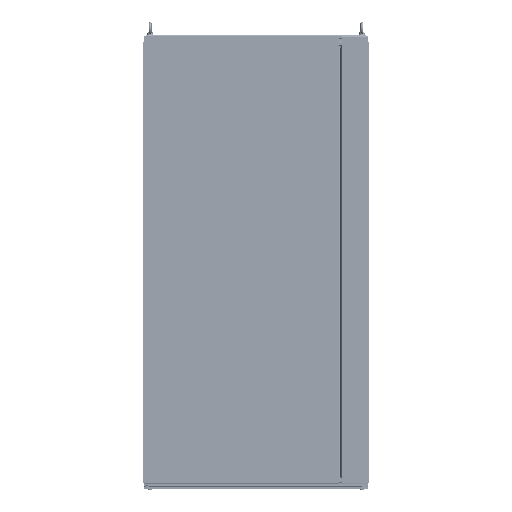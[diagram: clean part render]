
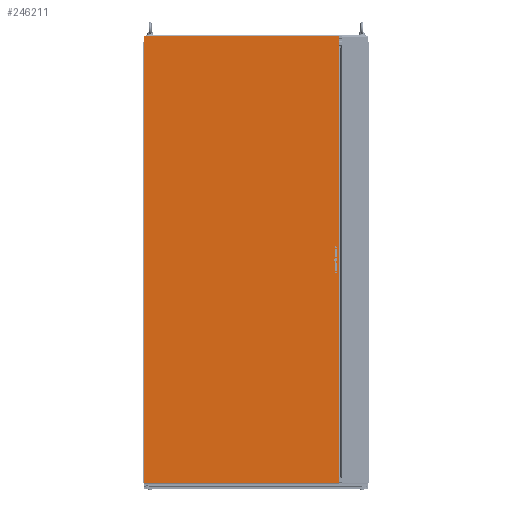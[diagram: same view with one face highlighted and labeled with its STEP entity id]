
A CAD part, top view. The second image highlights one B-rep face of the part: STEP entity #246211.
In plain terms, the highlighted planar face has unit normal (0, 0, 1).
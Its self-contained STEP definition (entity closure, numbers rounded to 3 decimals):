
#244360=DIRECTION('',(0.,1.,0.));
#244361=VECTOR('',#244360,1896.);
#244362=CARTESIAN_POINT('',(-430.5,-937.25,15.));
#244363=LINE('',#244362,#244361);
#244364=CARTESIAN_POINT('',(-414.5,43.75,15.));
#244365=DIRECTION('',(0.,0.,1.));
#244366=DIRECTION('',(1.,0.,0.));
#244367=AXIS2_PLACEMENT_3D('',#244364,#244365,#244366);
#244369=DIRECTION('',(0.,-1.,0.));
#244370=VECTOR('',#244369,27.5);
#244371=CARTESIAN_POINT('',(-419.4,43.75,15.));
#244372=LINE('',#244371,#244370);
#244373=CARTESIAN_POINT('',(-414.5,16.25,15.));
#244374=DIRECTION('',(0.,0.,1.));
#244375=DIRECTION('',(-1.,0.,0.));
#244376=AXIS2_PLACEMENT_3D('',#244373,#244374,#244375);
#244378=DIRECTION('',(0.,1.,0.));
#244379=VECTOR('',#244378,27.5);
#244380=CARTESIAN_POINT('',(-409.6,16.25,15.));
#244381=LINE('',#244380,#244379);
#244382=DIRECTION('',(0.,1.,0.));
#244383=VECTOR('',#244382,27.5);
#244384=CARTESIAN_POINT('',(-409.6,-43.75,15.));
#244385=LINE('',#244384,#244383);
#244386=CARTESIAN_POINT('',(-414.5,-16.25,15.));
#244387=DIRECTION('',(0.,0.,1.));
#244388=DIRECTION('',(1.,0.,0.));
#244389=AXIS2_PLACEMENT_3D('',#244386,#244387,#244388);
#244391=DIRECTION('',(0.,-1.,0.));
#244392=VECTOR('',#244391,27.5);
#244393=CARTESIAN_POINT('',(-419.4,-16.25,15.));
#244394=LINE('',#244393,#244392);
#244395=CARTESIAN_POINT('',(-414.5,-43.75,15.));
#244396=DIRECTION('',(0.,0.,1.));
#244397=DIRECTION('',(-1.,0.,0.));
#244398=AXIS2_PLACEMENT_3D('',#244395,#244396,#244397);
#244400=CARTESIAN_POINT('',(-414.5,56.,15.));
#244401=DIRECTION('',(0.,0.,1.));
#244402=DIRECTION('',(1.,0.,0.));
#244403=AXIS2_PLACEMENT_3D('',#244400,#244401,#244402);
#244405=CARTESIAN_POINT('',(-414.5,56.,15.));
#244406=DIRECTION('',(0.,0.,1.));
#244407=DIRECTION('',(-1.,0.,0.));
#244408=AXIS2_PLACEMENT_3D('',#244405,#244406,#244407);
#244410=CARTESIAN_POINT('',(-414.5,-56.,15.));
#244411=DIRECTION('',(0.,0.,1.));
#244412=DIRECTION('',(1.,0.,0.));
#244413=AXIS2_PLACEMENT_3D('',#244410,#244411,#244412);
#244415=CARTESIAN_POINT('',(-414.5,-56.,15.));
#244416=DIRECTION('',(0.,0.,1.));
#244417=DIRECTION('',(-1.,0.,0.));
#244418=AXIS2_PLACEMENT_3D('',#244415,#244416,#244417);
#244420=CARTESIAN_POINT('',(-414.5,0.,15.));
#244421=DIRECTION('',(0.,0.,1.));
#244422=DIRECTION('',(1.,0.,0.));
#244423=AXIS2_PLACEMENT_3D('',#244420,#244421,#244422);
#244425=CARTESIAN_POINT('',(-414.5,0.,15.));
#244426=DIRECTION('',(0.,0.,1.));
#244427=DIRECTION('',(-1.,0.,0.));
#244428=AXIS2_PLACEMENT_3D('',#244425,#244426,#244427);
#244430=DIRECTION('',(-1.,0.,0.));
#244431=VECTOR('',#244430,861.);
#244432=CARTESIAN_POINT('',(430.5,985.75,15.));
#244433=LINE('',#244432,#244431);
#244434=DIRECTION('',(0.,1.,0.));
#244435=VECTOR('',#244434,1971.5);
#244436=CARTESIAN_POINT('',(430.5,-985.75,15.));
#244437=LINE('',#244436,#244435);
#244438=DIRECTION('',(0.,-1.,0.));
#244439=VECTOR('',#244438,48.5);
#244440=CARTESIAN_POINT('',(-430.5,-937.25,15.));
#244441=LINE('',#244440,#244439);
#244442=DIRECTION('',(0.,-1.,0.));
#244443=VECTOR('',#244442,27.);
#244444=CARTESIAN_POINT('',(-430.5,985.75,15.));
#244445=LINE('',#244444,#244443);
#245334=DIRECTION('',(-1.,0.,0.));
#245335=VECTOR('',#245334,861.);
#245336=CARTESIAN_POINT('',(430.5,-985.75,15.));
#245337=LINE('',#245336,#245335);
#245727=CARTESIAN_POINT('',(430.5,-985.75,15.));
#245729=VERTEX_POINT('',#245727);
#245731=CARTESIAN_POINT('',(430.5,985.75,15.));
#245733=VERTEX_POINT('',#245731);
#245774=CARTESIAN_POINT('',(-409.6,43.75,15.));
#245775=CARTESIAN_POINT('',(-419.4,43.75,15.));
#245776=VERTEX_POINT('',#245774);
#245777=VERTEX_POINT('',#245775);
#245778=CARTESIAN_POINT('',(-419.4,16.25,15.));
#245779=VERTEX_POINT('',#245778);
#245780=CARTESIAN_POINT('',(-409.6,16.25,15.));
#245781=VERTEX_POINT('',#245780);
#245782=CARTESIAN_POINT('',(-409.6,-43.75,15.));
#245783=CARTESIAN_POINT('',(-409.6,-16.25,15.));
#245784=VERTEX_POINT('',#245782);
#245785=VERTEX_POINT('',#245783);
#245786=CARTESIAN_POINT('',(-419.4,-16.25,15.));
#245787=VERTEX_POINT('',#245786);
#245788=CARTESIAN_POINT('',(-419.4,-43.75,15.));
#245789=VERTEX_POINT('',#245788);
#245806=CARTESIAN_POINT('',(-410.5,56.,15.));
#245807=CARTESIAN_POINT('',(-418.5,56.,15.));
#245808=VERTEX_POINT('',#245806);
#245809=VERTEX_POINT('',#245807);
#245810=CARTESIAN_POINT('',(-410.5,-56.,15.));
#245811=CARTESIAN_POINT('',(-418.5,-56.,15.));
#245812=VERTEX_POINT('',#245810);
#245813=VERTEX_POINT('',#245811);
#245814=CARTESIAN_POINT('',(-406.75,0.,15.));
#245815=CARTESIAN_POINT('',(-422.25,0.,15.));
#245816=VERTEX_POINT('',#245814);
#245817=VERTEX_POINT('',#245815);
#246014=CARTESIAN_POINT('',(-430.5,985.75,15.));
#246015=CARTESIAN_POINT('',(-430.5,958.75,15.));
#246016=VERTEX_POINT('',#246014);
#246017=VERTEX_POINT('',#246015);
#246018=CARTESIAN_POINT('',(-430.5,-937.25,15.));
#246019=CARTESIAN_POINT('',(-430.5,-985.75,15.));
#246020=VERTEX_POINT('',#246018);
#246021=VERTEX_POINT('',#246019);
#246155=CARTESIAN_POINT('',(430.5,-985.75,15.));
#246156=DIRECTION('',(0.,0.,1.));
#246157=DIRECTION('',(-1.,0.,0.));
#246158=AXIS2_PLACEMENT_3D('',#246155,#246156,#246157);
#246159=PLANE('',#246158);
#246161=ORIENTED_EDGE('',*,*,#246160,.F.);
#246163=ORIENTED_EDGE('',*,*,#246162,.F.);
#246165=ORIENTED_EDGE('',*,*,#246164,.T.);
#246167=ORIENTED_EDGE('',*,*,#246166,.F.);
#246168=ORIENTED_EDGE('',*,*,#246147,.T.);
#246170=ORIENTED_EDGE('',*,*,#246169,.F.);
#246171=EDGE_LOOP('',(#246161,#246163,#246165,#246167,#246168,#246170));
#246172=FACE_OUTER_BOUND('',#246171,.F.);
#246174=ORIENTED_EDGE('',*,*,#246173,.T.);
#246176=ORIENTED_EDGE('',*,*,#246175,.T.);
#246178=ORIENTED_EDGE('',*,*,#246177,.T.);
#246180=ORIENTED_EDGE('',*,*,#246179,.T.);
#246181=EDGE_LOOP('',(#246174,#246176,#246178,#246180));
#246182=FACE_BOUND('',#246181,.F.);
#246184=ORIENTED_EDGE('',*,*,#246183,.T.);
#246186=ORIENTED_EDGE('',*,*,#246185,.T.);
#246187=EDGE_LOOP('',(#246184,#246186));
#246188=FACE_BOUND('',#246187,.F.);
#246190=ORIENTED_EDGE('',*,*,#246189,.T.);
#246192=ORIENTED_EDGE('',*,*,#246191,.T.);
#246193=EDGE_LOOP('',(#246190,#246192));
#246194=FACE_BOUND('',#246193,.F.);
#246196=ORIENTED_EDGE('',*,*,#246195,.T.);
#246198=ORIENTED_EDGE('',*,*,#246197,.T.);
#246199=EDGE_LOOP('',(#246196,#246198));
#246200=FACE_BOUND('',#246199,.F.);
#246202=ORIENTED_EDGE('',*,*,#246201,.T.);
#246204=ORIENTED_EDGE('',*,*,#246203,.T.);
#246206=ORIENTED_EDGE('',*,*,#246205,.T.);
#246208=ORIENTED_EDGE('',*,*,#246207,.T.);
#246209=EDGE_LOOP('',(#246202,#246204,#246206,#246208));
#246210=FACE_BOUND('',#246209,.F.);
#246211=ADVANCED_FACE('',(#246172,#246182,#246188,#246194,#246200,#246210),
#246159,.T.);
#244368=CIRCLE('',#244367,4.9);
#244377=CIRCLE('',#244376,4.9);
#244390=CIRCLE('',#244389,4.9);
#244399=CIRCLE('',#244398,4.9);
#244404=CIRCLE('',#244403,4.);
#244409=CIRCLE('',#244408,4.);
#244414=CIRCLE('',#244413,4.);
#244419=CIRCLE('',#244418,4.);
#244424=CIRCLE('',#244423,7.75);
#244429=CIRCLE('',#244428,7.75);
#246147=EDGE_CURVE('',#246020,#246017,#244363,.T.);
#246160=EDGE_CURVE('',#245733,#246016,#244433,.T.);
#246162=EDGE_CURVE('',#245729,#245733,#244437,.T.);
#246164=EDGE_CURVE('',#245729,#246021,#245337,.T.);
#246166=EDGE_CURVE('',#246020,#246021,#244441,.T.);
#246169=EDGE_CURVE('',#246016,#246017,#244445,.T.);
#246173=EDGE_CURVE('',#245784,#245785,#244385,.T.);
#246175=EDGE_CURVE('',#245785,#245787,#244390,.T.);
#246177=EDGE_CURVE('',#245787,#245789,#244394,.T.);
#246179=EDGE_CURVE('',#245789,#245784,#244399,.T.);
#246183=EDGE_CURVE('',#245808,#245809,#244404,.T.);
#246185=EDGE_CURVE('',#245809,#245808,#244409,.T.);
#246189=EDGE_CURVE('',#245812,#245813,#244414,.T.);
#246191=EDGE_CURVE('',#245813,#245812,#244419,.T.);
#246195=EDGE_CURVE('',#245816,#245817,#244424,.T.);
#246197=EDGE_CURVE('',#245817,#245816,#244429,.T.);
#246201=EDGE_CURVE('',#245776,#245777,#244368,.T.);
#246203=EDGE_CURVE('',#245777,#245779,#244372,.T.);
#246205=EDGE_CURVE('',#245779,#245781,#244377,.T.);
#246207=EDGE_CURVE('',#245781,#245776,#244381,.T.);
